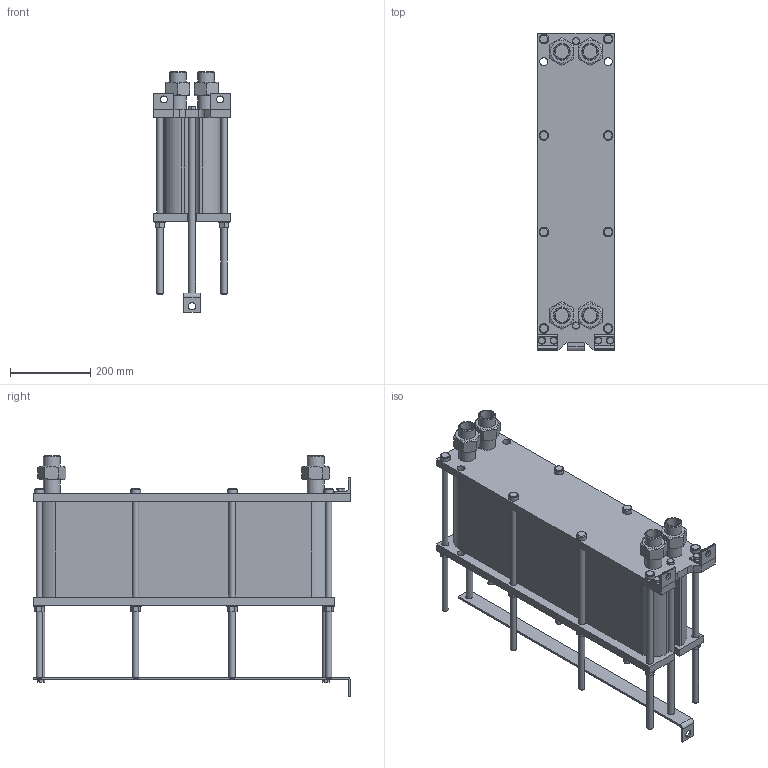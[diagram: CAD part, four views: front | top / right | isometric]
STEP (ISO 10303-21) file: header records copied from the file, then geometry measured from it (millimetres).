
FILE_DESCRIPTION(/* description */ (''),/* implementation_level */ '2;1');
FILE_NAME(/* name */ 'C:\Users\zhuro\Desktop\ENCO\TO\ЭН-008\ЭН-0,5-008-77-1.stp',/* time_stamp */ '2022-06-06T10:52:15+03:00',/* author */ ('zhuro'),/* organization */ (''),/* preprocessor_version */ 'ST-DEVELOPER v18.1',/* originating_system */ 'Autodesk Inventor 2022',/* authorisation */ '');
FILE_SCHEMA (('AUTOMOTIVE_DESIGN { 1 0 10303 214 3 1 1 }'));
Length unit declared in the file: millimetre
Products named in the file (1): ЭН-0,5-008-77-1
Bounding box: 190 x 790 x 598.6 mm (x, y, z)
Volume: 31206161.7 mm3; surface area: 1826971.7 mm2
Topology: 40 solids, 40 shells, 428 faces, 924 edges, 606 vertices
Faces by surface type: plane 273, cylinder 109, cone 40, torus 6
Full cylindrical faces by diameter (mm): 12 x6, 14 x2, 16 x20, 17 x8, 18 x19, 20 x5, 24 x8, 28 x8, 34.3 x8, 42.3 x8
Entity records: 15843 total; most frequent: CARTESIAN_POINT 5991, DIRECTION 1984, ORIENTED_EDGE 1848, EDGE_CURVE 924, AXIS2_PLACEMENT_3D 715, VERTEX_POINT 606, LINE 554, VECTOR 554
